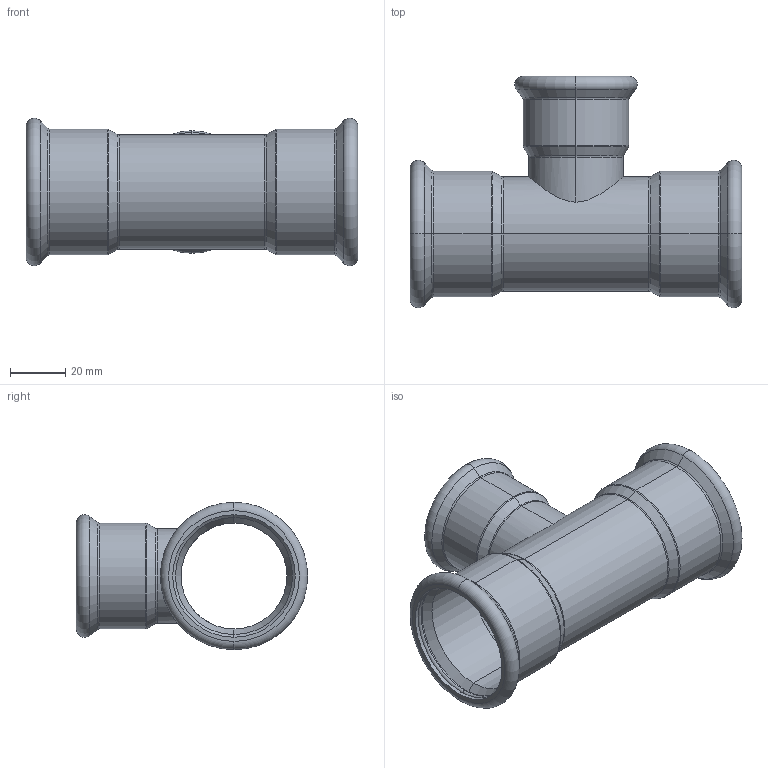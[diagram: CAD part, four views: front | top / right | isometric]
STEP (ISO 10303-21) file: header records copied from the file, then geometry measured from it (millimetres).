
FILE_DESCRIPTION (( 'STEP AP214' ), '1' );
FILE_NAME ('T42350R.STEP', '2025-08-18T00:25:59', ( '' ), ( '' ), 'SwSTEP 2.0', 'SolidWorks 2020', '' );
FILE_SCHEMA (( 'AUTOMOTIVE_DESIGN' ));
Length unit declared in the file: millimetre
Products named in the file (1): T42350R
Bounding box: 120 x 83.65 x 53.29 mm (x, y, z)
Volume: 33286.6 mm3; surface area: 45861.9 mm2
Topology: 4 solids, 4 shells, 98 faces, 198 edges, 106 vertices
Faces by surface type: torus 42, cylinder 26, cone 24, plane 6
Entity records: 3929 total; most frequent: CARTESIAN_POINT 639, DIRECTION 536, ORIENTED_EDGE 396, AXIS2_PLACEMENT_3D 243, EDGE_CURVE 198, CIRCLE 144, VERTEX_POINT 106, EDGE_LOOP 106
